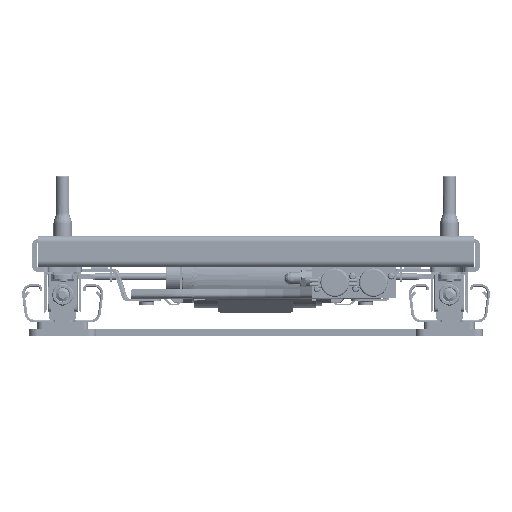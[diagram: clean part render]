
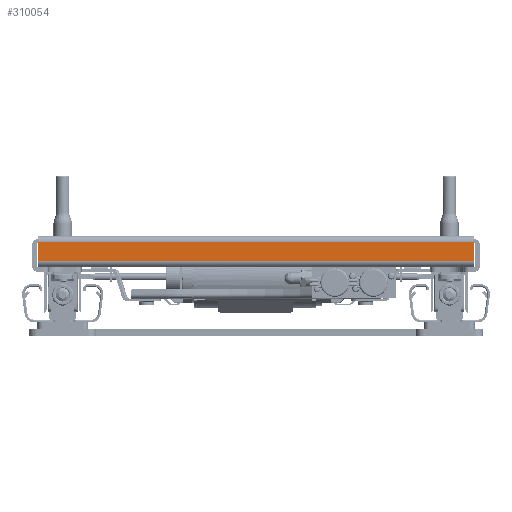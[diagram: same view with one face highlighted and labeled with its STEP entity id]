
A CAD part, left-side view. The second image highlights one B-rep face of the part: STEP entity #310054.
In plain terms, the highlighted planar face has unit normal (-1, 0, 0).
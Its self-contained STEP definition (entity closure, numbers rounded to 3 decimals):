
#310018=AXIS2_PLACEMENT_3D('Plane Axis2P3D',#310015,#310016,#310017) ;
#310015=CARTESIAN_POINT('Axis2P3D Location',(-423.666,-838.945,153.)) ;
#310020=CARTESIAN_POINT('Line Origine',(-423.639,-723.927,151.)) ;
#310024=CARTESIAN_POINT('Vertex',(-423.669,-853.356,151.)) ;
#310026=CARTESIAN_POINT('Vertex',(-423.608,-594.498,151.)) ;
#310029=CARTESIAN_POINT('Line Origine',(-423.608,-594.498,145.55)) ;
#310033=CARTESIAN_POINT('Vertex',(-423.608,-594.498,140.1)) ;
#310036=CARTESIAN_POINT('Line Origine',(-423.639,-723.927,140.1)) ;
#310040=CARTESIAN_POINT('Vertex',(-423.669,-853.356,140.1)) ;
#310043=CARTESIAN_POINT('Line Origine',(-423.669,-853.356,145.55)) ;
#310016=DIRECTION('Axis2P3D Direction',(1.,0.,0.)) ;
#310017=DIRECTION('Axis2P3D XDirection',(0.,0.,-1.)) ;
#310021=DIRECTION('Vector Direction',(0.,1.,0.)) ;
#310030=DIRECTION('Vector Direction',(0.,0.,-1.)) ;
#310037=DIRECTION('Vector Direction',(0.,1.,0.)) ;
#310044=DIRECTION('Vector Direction',(0.,0.,-1.)) ;
#310022=VECTOR('Line Direction',#310021,1.) ;
#310031=VECTOR('Line Direction',#310030,1.) ;
#310038=VECTOR('Line Direction',#310037,1.) ;
#310045=VECTOR('Line Direction',#310044,1.) ;
#310049=ORIENTED_EDGE('',*,*,#310028,.T.) ;
#310050=ORIENTED_EDGE('',*,*,#310035,.T.) ;
#310051=ORIENTED_EDGE('',*,*,#310042,.F.) ;
#310052=ORIENTED_EDGE('',*,*,#310047,.F.) ;
#310054=ADVANCED_FACE('shangkuang1.1\\\X2\51E04F554F53\X0\.32',(#310053),#310019,.F.) ;
#310028=EDGE_CURVE('',#310025,#310027,#310023,.T.) ;
#310035=EDGE_CURVE('',#310027,#310034,#310032,.T.) ;
#310042=EDGE_CURVE('',#310041,#310034,#310039,.T.) ;
#310047=EDGE_CURVE('',#310025,#310041,#310046,.T.) ;
#310048=EDGE_LOOP('',(#310049,#310050,#310051,#310052)) ;
#310053=FACE_OUTER_BOUND('',#310048,.T.) ;
#310023=LINE('Line',#310020,#310022) ;
#310032=LINE('Line',#310029,#310031) ;
#310039=LINE('Line',#310036,#310038) ;
#310046=LINE('Line',#310043,#310045) ;
#310019=PLANE('Plane',#310018) ;
#310025=VERTEX_POINT('',#310024) ;
#310027=VERTEX_POINT('',#310026) ;
#310034=VERTEX_POINT('',#310033) ;
#310041=VERTEX_POINT('',#310040) ;
